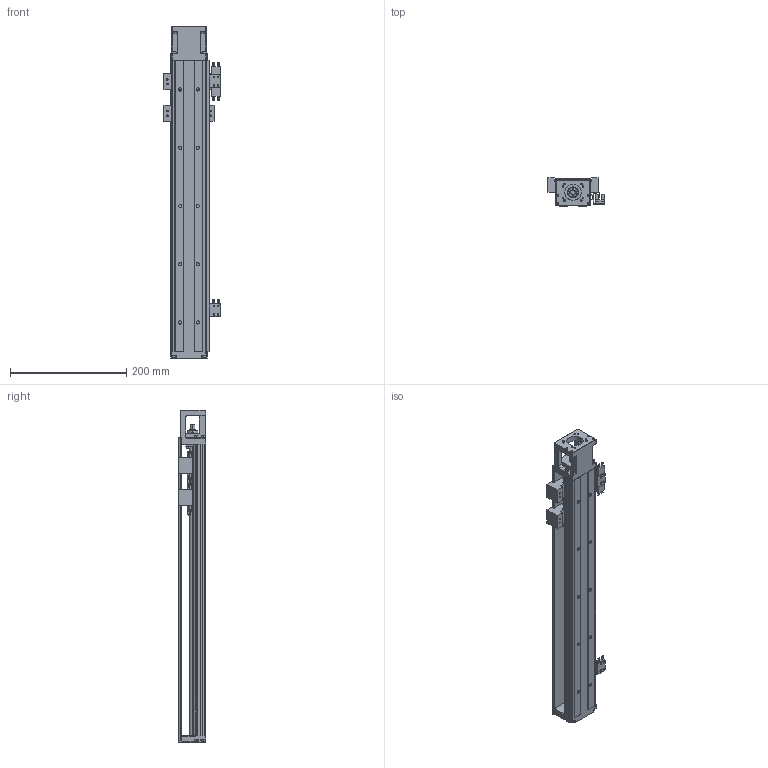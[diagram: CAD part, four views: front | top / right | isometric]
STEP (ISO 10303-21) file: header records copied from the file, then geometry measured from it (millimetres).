
FILE_DESCRIPTION (( 'STEP AP214' ), '1' );
FILE_NAME ('SFKK60-500S2-F0C.STEP', '2022-05-03T02:26:57', ( '微软用户' ), ( '微软中国' ), 'SwSTEP 2.0', 'SolidWorks 2018', '' );
FILE_SCHEMA (( 'AUTOMOTIVE_DESIGN' ));
Length unit declared in the file: millimetre
Products named in the file (9): SFKK60-500S2-F0C; 极限轨道与开关固定座组合_500; SFKK60-LR 憤癹寢耋_500; SFKK-60-CU_500; 开关固定座：KK-674S2-F; SFKK60C-S1-C; SFKK60-F0_500; SX674嫖萇羲壽; 带盖挡光片：KK-60-S2-D1
Assembly tree (12 placements, depth 3):
  SFKK60-500S2-F0C
    SFKK60-F0_500
    SFKK60C-S1-C  x2
    极限轨道与开关固定座组合_500
      SFKK60-LR 憤癹寢耋_500
      开关固定座：KK-674S2-F  x2
    SX674嫖萇羲壽  x3
    SFKK-60-CU_500
    带盖挡光片：KK-60-S2-D1
Bounding box: 96.4 x 48 x 570 mm (x, y, z)
Volume: 721637.1 mm3; surface area: 311462.9 mm2
Topology: 54 solids, 64 shells, 2611 faces, 6863 edges, 4437 vertices
Faces by surface type: plane 1373, cylinder 944, cone 168, torus 63, bspline 40, sphere 23
Entity records: 72735 total; most frequent: CARTESIAN_POINT 18105, DIRECTION 8933, ORIENTED_EDGE 8654, EDGE_CURVE 4327, AXIS2_PLACEMENT_3D 3135, VERTEX_POINT 2805, LINE 2663, VECTOR 2663
